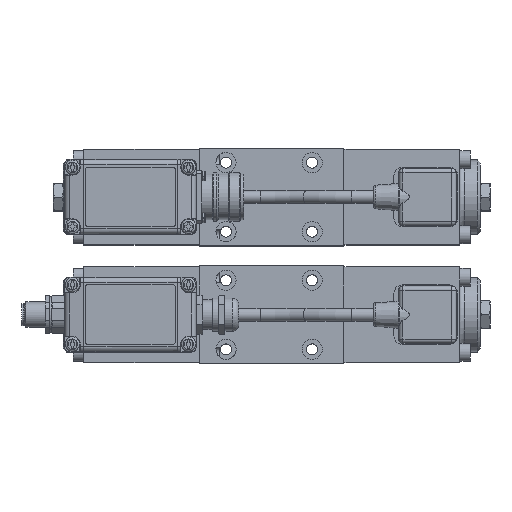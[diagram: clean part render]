
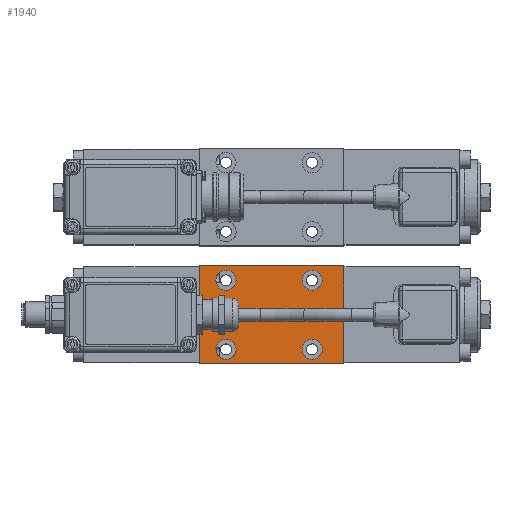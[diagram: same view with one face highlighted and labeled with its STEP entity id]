
A CAD part, top view. The second image highlights one B-rep face of the part: STEP entity #1940.
In plain terms, the highlighted planar face has unit normal (0, 0, 1).
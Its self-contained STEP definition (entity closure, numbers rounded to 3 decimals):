
#1940=ADVANCED_FACE('', (#1950,#1960,#1970,#1980,#1990), #2000, .T.);
#51480=AXIS2_PLACEMENT_3D('Ax2Pl3d', #51490, #51500, #51510);
#51760=AXIS2_PLACEMENT_3D('Ax2Pl3d', #51770, #51780, #51790);
#52680=AXIS2_PLACEMENT_3D('Ax2Pl3d', #52690, #52700, #52710);
#52720=AXIS2_PLACEMENT_3D('Ax2Pl3d', #52730, #52740, #52750);
#52760=AXIS2_PLACEMENT_3D('Ax2Pl3d', #52770, #52780, #52790);
#51490=CARTESIAN_POINT('HicPkt', (12.5,6.75,49.));
#204740=CARTESIAN_POINT('', (12.5,11.5,49.));
#51770=CARTESIAN_POINT('HicPkt', (12.5,39.25,49.));
#204830=CARTESIAN_POINT('', (12.5,44.,49.));
#204920=CARTESIAN_POINT('', (0.,0.,49.)
);
#204930=CARTESIAN_POINT('', (0.,0.,49.))
;
#204940=CARTESIAN_POINT('', (0.,46.,49.));
#52690=CARTESIAN_POINT('HicPkt', (0.,46.,49.));
#205130=CARTESIAN_POINT('', (68.,0.,49.));
#205140=CARTESIAN_POINT('', (68.,0.,49.));
#205150=CARTESIAN_POINT('', (68.,46.,49.));
#205160=CARTESIAN_POINT('', (68.,46.,49.));
#205170=CARTESIAN_POINT('', (0.,46.,49.));
#52730=CARTESIAN_POINT('HicPkt', (53.,39.25,49.));
#205180=CARTESIAN_POINT('', (53.,34.5,49.));
#52770=CARTESIAN_POINT('HicPkt', (53.,6.75,49.));
#205190=CARTESIAN_POINT('', (53.,11.5,49.));
#248830=CIRCLE('Circle', #51480, 4.75);
#248870=CIRCLE('Circle', #51760, 4.75);
#249020=CIRCLE('Circle', #52720, 4.75);
#249030=CIRCLE('Circle', #52760, 4.75);
#51500=DIRECTION('Axis', (0.,0.,1.));
#51510=DIRECTION('RefDirection', (1.,0.,0.));
#51780=DIRECTION('Axis', (0.,0.,1.));
#51790=DIRECTION('RefDirection', (1.,0.,0.));
#373190=DIRECTION('', (0.,-1.,0.));
#52700=DIRECTION('Axis', (0.,0.,1.));
#52710=DIRECTION('RefDirection', (1.,0.,0.));
#373250=DIRECTION('', (1.,0.,0.));
#373260=DIRECTION('', (0.,1.,0.));
#373270=DIRECTION('', (-1.,0.,0.));
#52740=DIRECTION('Axis', (0.,0.,1.));
#52750=DIRECTION('RefDirection', (1.,0.,0.));
#52780=DIRECTION('Axis', (0.,0.,1.));
#52790=DIRECTION('RefDirection', (1.,0.,0.));
#394750=EDGE_CURVE('', #394760, #394760, #248830, .T.);
#394920=EDGE_CURVE('', #394930, #394930, #248870, .T.);
#395100=EDGE_CURVE('', #395110, #395080, #395120, .T.);
#395460=EDGE_CURVE('', #395080, #395470, #395480, .T.);
#395490=EDGE_CURVE('', #395470, #395500, #395510, .T.);
#395520=EDGE_CURVE('', #395500, #395110, #395530, .T.);
#395540=EDGE_CURVE('', #395550, #395550, #249020, .T.);
#395560=EDGE_CURVE('', #395570, #395570, #249030, .T.);
#474200=EDGE_LOOP('Edge_loop', (#474210,#474220,#474230,#474240));
#474250=EDGE_LOOP('Edge_loop', (#474260));
#474270=EDGE_LOOP('Edge_loop', (#474280));
#474290=EDGE_LOOP('Edge_loop', (#474300));
#474310=EDGE_LOOP('Edge_loop', (#474320));
#1960=FACE_BOUND('', #474250, .T.);
#1970=FACE_BOUND('', #474270, .T.);
#1980=FACE_BOUND('', #474290, .T.);
#1990=FACE_BOUND('', #474310, .T.);
#1950=FACE_OUTER_BOUND('Face_outer_bound', #474200, .T.);
#395120=LINE('Line', #204930, #592180);
#395480=LINE('Line', #205130, #592240);
#395510=LINE('Line', #205150, #592250);
#395530=LINE('Line', #205170, #592260);
#474210=ORIENTED_EDGE('', *, *, #395100, .T.);
#474220=ORIENTED_EDGE('', *, *, #395460, .T.);
#474230=ORIENTED_EDGE('', *, *, #395490, .T.);
#474240=ORIENTED_EDGE('', *, *, #395520, .T.);
#474260=ORIENTED_EDGE('', *, *, #394750, .F.);
#474280=ORIENTED_EDGE('', *, *, #394920, .F.);
#474300=ORIENTED_EDGE('', *, *, #395540, .F.);
#474320=ORIENTED_EDGE('', *, *, #395560, .F.);
#2000=PLANE('Plane', #52680);
#592180=VECTOR('', #373190, 46.);
#592240=VECTOR('', #373250, 68.);
#592250=VECTOR('', #373260, 46.);
#592260=VECTOR('', #373270, 68.);
#394760=VERTEX_POINT('', #204740);
#394930=VERTEX_POINT('', #204830);
#395080=VERTEX_POINT('', #204920);
#395110=VERTEX_POINT('', #204940);
#395470=VERTEX_POINT('', #205140);
#395500=VERTEX_POINT('', #205160);
#395550=VERTEX_POINT('', #205180);
#395570=VERTEX_POINT('', #205190);
